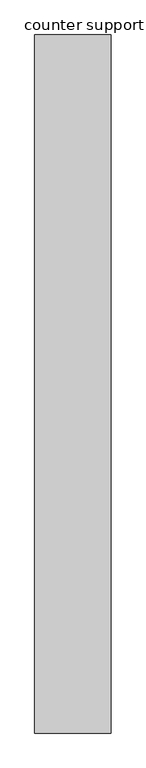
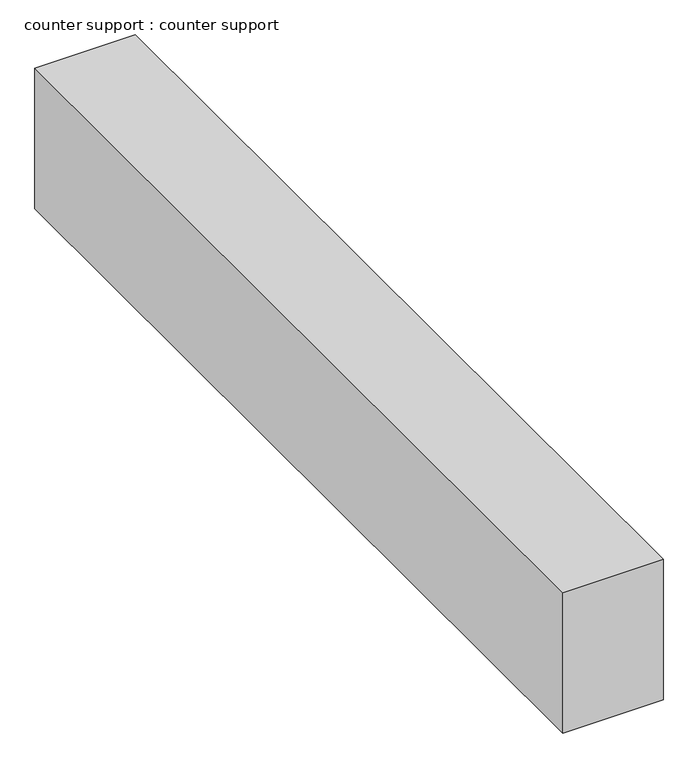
"""IFC4 building model written with IfcOpenShell, lengths in millimetres: furniture geometry, counter support : counter support."""

import ifcopenshell
import ifcopenshell.guid

model = None  # the IFC model being written
_history = None  # IfcOwnerHistory: only IFC2X3 demands one
_inside = {}  # id of a spatial element -> (the spatial element, [elements in it])
_under = {}  # id of a project, library or spatial element -> (it, [spatial elements below it])
_declared = {}  # id of a project -> (the project, [libraries it declares])
_typed = {}  # id of a type object -> (the type object, [elements of that type])
_made_of = {}  # id of a material, layer set ... -> (it, [elements and type objects made of it])


def new_model(schema):
    """Start an empty IFC model of exactly this schema.

    Asked for "IFC4X3", IfcOpenShell would pick the latest addendum, in which some entities
    have other attributes; the version numbers below select the first issue.
    IFC2X3 requires an IfcOwnerHistory on every rooted entity: one is made here for all.
    """
    global model, _history
    if schema == "IFC4X3":
        model = ifcopenshell.file(schema_version=(4, 3, 0, 0))
    else:
        model = ifcopenshell.file(schema=schema)
    _inside.clear()
    _under.clear()
    _declared.clear()
    _typed.clear()
    _made_of.clear()
    _history = None
    if model.schema == "IFC2X3":
        org = make("IfcOrganization", Name="unknown")
        user = make(
            "IfcPersonAndOrganization",
            ThePerson=make("IfcPerson", FamilyName="unknown"),
            TheOrganization=org,
        )
        app = make(
            "IfcApplication",
            ApplicationDeveloper=org,
            Version="unknown",
            ApplicationFullName="unknown",
            ApplicationIdentifier="unknown",
        )
        _history = make(
            "IfcOwnerHistory",
            OwningUser=user,
            OwningApplication=app,
            ChangeAction="ADDED",
            CreationDate=0,
        )
    return model


def make(cls, **values):
    """One entity of the class cls with the attributes given. An attribute that is None is left unset."""
    return model.create_entity(
        cls, **{name: value for name, value in values.items() if value is not None}
    )


def rooted(cls, **values):
    """An entity with a GlobalId (a new one), such as an element, a storey or a relation."""
    return make(cls, GlobalId=ifcopenshell.guid.new(), OwnerHistory=_history, **values)


def si_unit(unit_type, name, prefix=None):
    """IfcSIUnit, for example si_unit("LENGTHUNIT", "METRE", prefix="MILLI")."""
    return make("IfcSIUnit", UnitType=unit_type, Prefix=prefix, Name=name)


def assignment(units):
    """IfcUnitAssignment: the units of a project."""
    return None if units is None else make("IfcUnitAssignment", Units=units)


def point(xyz):
    """IfcCartesianPoint."""
    return None if xyz is None else make("IfcCartesianPoint", Coordinates=xyz)


def direction(xyz):
    """IfcDirection."""
    return None if xyz is None else make("IfcDirection", DirectionRatios=xyz)


def frame(location, z_axis=None, x_axis=None):
    """IfcAxis2Placement3D, a coordinate frame: its origin and axes. An axis left out is left unset."""
    return make(
        "IfcAxis2Placement3D",
        Location=point(location),
        Axis=direction(z_axis),
        RefDirection=direction(x_axis),
    )


def origin():
    """The frame at (0, 0, 0) with its axes left unset."""
    return frame((0.0, 0.0, 0.0))


def origin_with_axes():
    """The frame at (0, 0, 0) with the z axis (0, 0, 1) and the x axis (1, 0, 0) written out."""
    return frame((0.0, 0.0, 0.0), z_axis=(0.0, 0.0, 1.0), x_axis=(1.0, 0.0, 0.0))


def place(relative_to, where):
    """IfcLocalPlacement: puts the frame where relative to a parent placement (None: the world)."""
    return make(
        "IfcLocalPlacement", PlacementRelTo=relative_to, RelativePlacement=where
    )


def context(
    kind, dimensions, precision=None, world=None, true_north=None, identifier=None
):
    """IfcGeometricRepresentationContext, for example the 3D "Model" context."""
    return make(
        "IfcGeometricRepresentationContext",
        ContextIdentifier=identifier,
        ContextType=kind,
        CoordinateSpaceDimension=dimensions,
        Precision=precision,
        WorldCoordinateSystem=world,
        TrueNorth=true_north,
    )


def project(units=None, contexts=None):
    """IfcProject with its units and contexts."""
    return rooted(
        "IfcProject",
        Name="project",
        RepresentationContexts=contexts,
        UnitsInContext=assignment(units),
    )


def spatial(cls, under=None, at=None, **own):
    """A site, building, storey or space (cls), placed at a placement, below another one or the project."""
    s = rooted(cls, ObjectPlacement=at, **own)
    if under is not None:
        _under.setdefault(under.id(), (under, []))[1].append(s)
    return s


def polyline(points):
    """IfcPolyline through the points."""
    return make("IfcPolyline", Points=[point(p) for p in points])


def outline(outer, holes=None, kind="AREA"):
    """IfcArbitraryClosedProfileDef: a profile drawn as a closed curve; with holes, ...WithVoids."""
    if holes is None:
        return make("IfcArbitraryClosedProfileDef", ProfileType=kind, OuterCurve=outer)
    return make(
        "IfcArbitraryProfileDefWithVoids",
        ProfileType=kind,
        OuterCurve=outer,
        InnerCurves=holes,
    )


def extrude(swept, where, along, depth):
    """IfcExtrudedAreaSolid: the profile swept, set in the frame where, extruded along a direction by depth."""
    return make(
        "IfcExtrudedAreaSolid",
        SweptArea=swept,
        Position=where,
        ExtrudedDirection=direction(along),
        Depth=depth,
    )


def shape(context_of_items, identifier, shape_type, items):
    """IfcShapeRepresentation: the items that make up one representation, for example the "Body"."""
    return make(
        "IfcShapeRepresentation",
        ContextOfItems=context_of_items,
        RepresentationIdentifier=identifier,
        RepresentationType=shape_type,
        Items=items,
    )


def source(mapping_origin, context_of_items, identifier, shape_type, items):
    """IfcRepresentationMap: a shape defined once, which mapped items show again and again."""
    return make(
        "IfcRepresentationMap",
        MappingOrigin=mapping_origin,
        MappedRepresentation=shape(context_of_items, identifier, shape_type, items),
    )


def transform(
    local_origin,
    x_axis=None,
    y_axis=None,
    z_axis=None,
    scale=None,
    scale2=None,
    scale3=None,
    uniform=True,
):
    """IfcCartesianTransformationOperator3D, or its non-uniform kind. x_axis, y_axis, z_axis: its Axis1, 2, 3."""
    if uniform:
        return make(
            "IfcCartesianTransformationOperator3D",
            Axis1=direction(x_axis),
            Axis2=direction(y_axis),
            LocalOrigin=point(local_origin),
            Scale=scale,
            Axis3=direction(z_axis),
        )
    return make(
        "IfcCartesianTransformationOperator3DnonUniform",
        Axis1=direction(x_axis),
        Axis2=direction(y_axis),
        LocalOrigin=point(local_origin),
        Scale=scale,
        Axis3=direction(z_axis),
        Scale2=scale2,
        Scale3=scale3,
    )


def mapped(mapping_source, mapping_target):
    """IfcMappedItem: shows the shape of a source again, moved by a transform."""
    return make(
        "IfcMappedItem", MappingSource=mapping_source, MappingTarget=mapping_target
    )


def made_of(thing, what):
    """Note that an element or type object is made of a material, layer set ...; save() writes the relation."""
    if what is not None:
        _made_of.setdefault(what.id(), (what, []))[1].append(thing)
    return thing


def element(
    cls,
    number,
    at=None,
    inside=None,
    cuts=None,
    type_object=None,
    material=None,
    context=None,
    identifier="Body",
    shape_type=None,
    held_by="IfcProductDefinitionShape",
    body=None,
    shapes=None,
    **own,
):
    """One element of the class cls, such as IfcWall. Its Tag is "e" and its number.

    at: its placement. inside: the storey or other place that contains it. cuts: it is an
    opening in that element (IfcRelVoidsElement). A single representation is given by context,
    identifier, shape_type and body (its items); several are given by shapes. held_by: the class
    of the entity that holds the representations. save() writes the other relations.
    """
    e = rooted(cls, Tag="e%d" % number, ObjectPlacement=at, **own)
    if body is not None:
        shapes = [shape(context, identifier, shape_type, body)]
    if shapes is not None:
        e.Representation = make(held_by, Representations=shapes)
    if inside is not None:
        _inside.setdefault(inside.id(), (inside, []))[1].append(e)
    if cuts is not None:
        rooted(
            "IfcRelVoidsElement", RelatingBuildingElement=cuts, RelatedOpeningElement=e
        )
    if type_object is not None:
        _typed.setdefault(type_object.id(), (type_object, []))[1].append(e)
    return made_of(e, material)


def aggregate(whole, parts):
    """IfcRelAggregates: a whole, such as a stair, and the parts it consists of."""
    return rooted("IfcRelAggregates", RelatingObject=whole, RelatedObjects=parts)


def save(model, path):
    """Write the relations noted so far, then the file.

    IfcRelAggregates (storeys below a building ...), IfcRelContainedInSpatialStructure (elements
    in a storey), IfcRelDefinesByType, IfcRelAssociatesMaterial and IfcRelDeclares: one each for
    every whole, place, type object, material and project.
    """
    for whole, parts in _under.values():
        aggregate(whole, parts)
    for where, things in _inside.values():
        rooted(
            "IfcRelContainedInSpatialStructure",
            RelatedElements=things,
            RelatingStructure=where,
        )
    for kind, things in _typed.values():
        rooted("IfcRelDefinesByType", RelatedObjects=things, RelatingType=kind)
    for what, things in _made_of.values():
        rooted("IfcRelAssociatesMaterial", RelatedObjects=things, RelatingMaterial=what)
    for by, libraries in _declared.values():
        rooted("IfcRelDeclares", RelatingContext=by, RelatedDefinitions=libraries)
    model.write(path)


def counter_support_counter_support_e094c8d8(model_context):
    return source(origin(), model_context, "Body", "SweptSolid", [
        extrude(outline(polyline([(-2522.2263506, -52302.7574324), (-2522.2263506, -57744.4833456), (-3119.1263506, -57744.4833456), (-3119.1263506, -52302.7574324), (-2522.2263506, -52302.7574324)])), origin_with_axes(), (0.0, 0.0, 1.0), 884.3009651),
    ])


if __name__ == "__main__":
    model = new_model("IFC4")
    model_context = context("Model", 3, world=origin())
    ifc_project = project(units=[si_unit("LENGTHUNIT", "METRE", prefix="MILLI")], contexts=[model_context])
    site = spatial("IfcSite", under=ifc_project)
    building = spatial("IfcBuilding", under=site)
    placement = place(None, origin())
    counter_support_counter_support_shape = counter_support_counter_support_e094c8d8(model_context)
    element("IfcFurniture", 1, ObjectType="counter support : counter support", at=placement, inside=building, context=model_context, shape_type="MappedRepresentation", body=[
        mapped(counter_support_counter_support_shape, transform((0.0, 0.0, 0.0), x_axis=(1.0, 0.0, 0.0), y_axis=(0.0, 1.0, 0.0), z_axis=(0.0, 0.0, 1.0))),
    ])
    save(model, "model.ifc")
